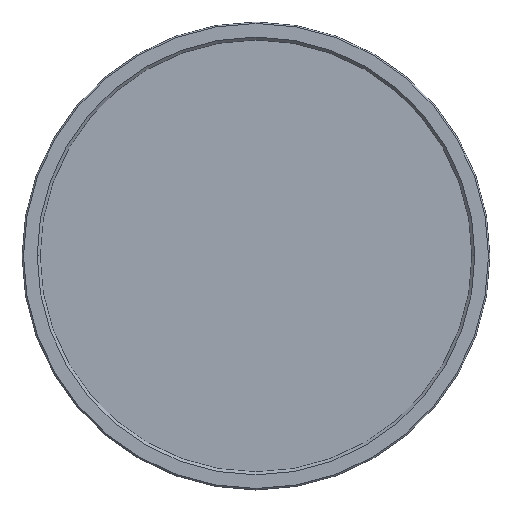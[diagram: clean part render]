
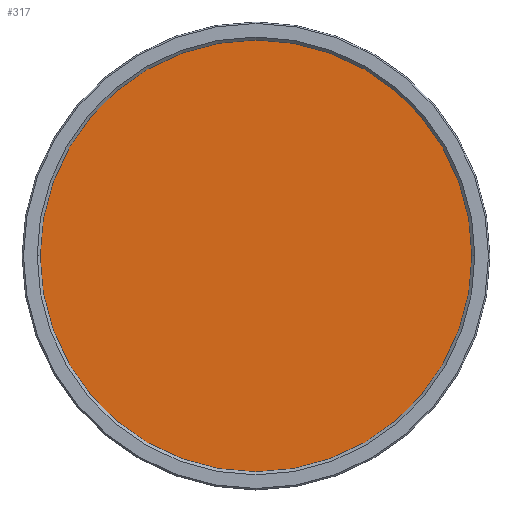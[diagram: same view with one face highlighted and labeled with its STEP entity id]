
A CAD part, top view. The second image highlights one B-rep face of the part: STEP entity #317.
In plain terms, the highlighted planar face has unit normal (0, 0, 1).
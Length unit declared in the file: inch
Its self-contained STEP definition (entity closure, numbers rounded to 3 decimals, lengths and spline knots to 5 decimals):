
#102=CARTESIAN_POINT('',(0.,0.,-0.08));
#103=DIRECTION('',(0.,0.,1.));
#104=DIRECTION('',(1.,0.,0.));
#105=AXIS2_PLACEMENT_3D('',#102,#103,#104);
#107=CARTESIAN_POINT('',(0.,0.,-0.08));
#108=DIRECTION('',(0.,0.,1.));
#109=DIRECTION('',(-1.,0.,0.));
#110=AXIS2_PLACEMENT_3D('',#107,#108,#109);
#112=CARTESIAN_POINT('',(1.5,0.,-0.08));
#113=CARTESIAN_POINT('',(-1.5,0.,-0.08));
#114=VERTEX_POINT('',#112);
#115=VERTEX_POINT('',#113);
#308=CARTESIAN_POINT('',(0.,0.,-0.08));
#309=DIRECTION('',(0.,0.,1.));
#310=DIRECTION('',(1.,0.,0.));
#311=AXIS2_PLACEMENT_3D('',#308,#309,#310);
#312=PLANE('',#311);
#313=ORIENTED_EDGE('',*,*,#288,.F.);
#314=ORIENTED_EDGE('',*,*,#302,.F.);
#315=EDGE_LOOP('',(#313,#314));
#316=FACE_OUTER_BOUND('',#315,.F.);
#317=ADVANCED_FACE('',(#316),#312,.T.);
#106=CIRCLE('',#105,1.5);
#111=CIRCLE('',#110,1.5);
#288=EDGE_CURVE('',#114,#115,#106,.T.);
#302=EDGE_CURVE('',#115,#114,#111,.T.);
